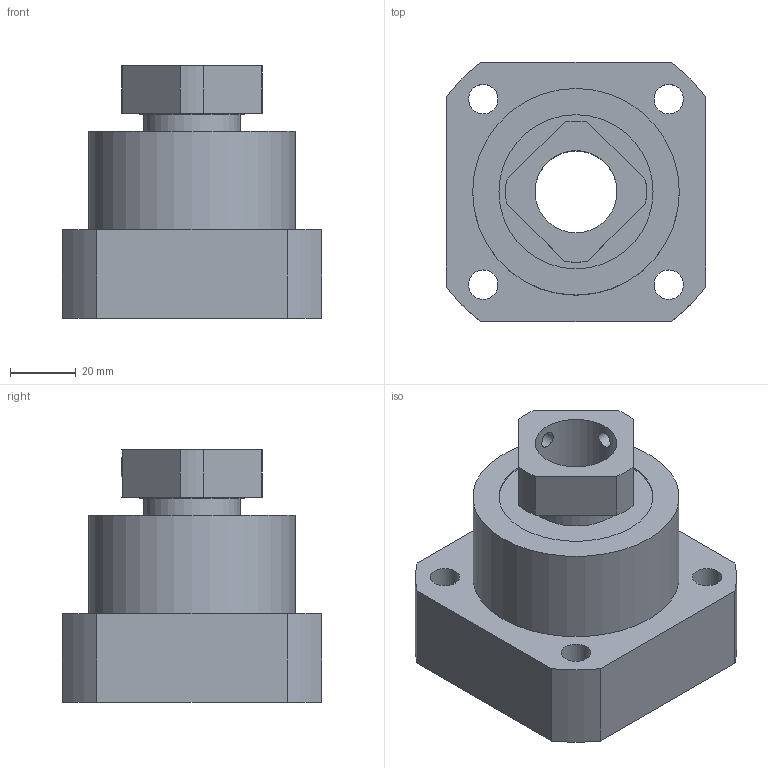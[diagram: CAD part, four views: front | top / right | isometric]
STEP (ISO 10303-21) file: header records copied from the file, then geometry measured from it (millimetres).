
FILE_DESCRIPTION(/* description */ (''),/* implementation_level */ '2;1');
FILE_NAME(/* name */ 'C:\Users\tenki620635\Desktop\官網\圖面\軸承座\3D\setp檔\FK25-Btype.stp',/* time_stamp */ '2020-12-18T19:54:13+08:00',/* author */ ('tenki620635'),/* organization */ (''),/* preprocessor_version */ 'ST-DEVELOPER v15.2',/* originating_system */ 'Autodesk Inventor 2014',/* authorisation */ '');
FILE_SCHEMA (('AUTOMOTIVE_DESIGN { 1 0 10303 214 3 1 1 }'));
Length unit declared in the file: millimetre
Products named in the file (1): FK25-Btype
Bounding box: 79 x 79 x 77 mm (x, y, z)
Volume: 223175.9 mm3; surface area: 38438.5 mm2
Topology: 1 solids, 1 shells, 46 faces, 106 edges, 72 vertices
Faces by surface type: cylinder 25, plane 21
Full cylindrical faces by diameter (mm): 4.917 x2, 9 x4, 15 x4, 25 x1, 29.5 x2, 32 x1, 47 x2, 63 x1
Entity records: 1375 total; most frequent: CARTESIAN_POINT 335, DIRECTION 218, ORIENTED_EDGE 168, AXIS2_PLACEMENT_3D 93, EDGE_LOOP 88, EDGE_CURVE 84, VERTEX_POINT 68, FACE_BOUND 52
